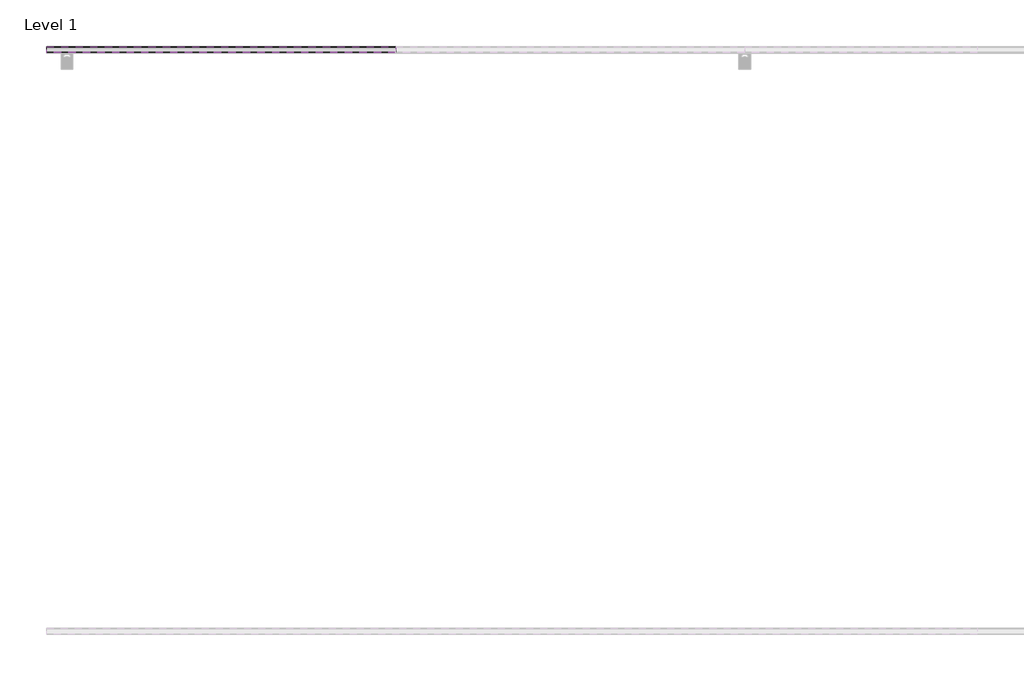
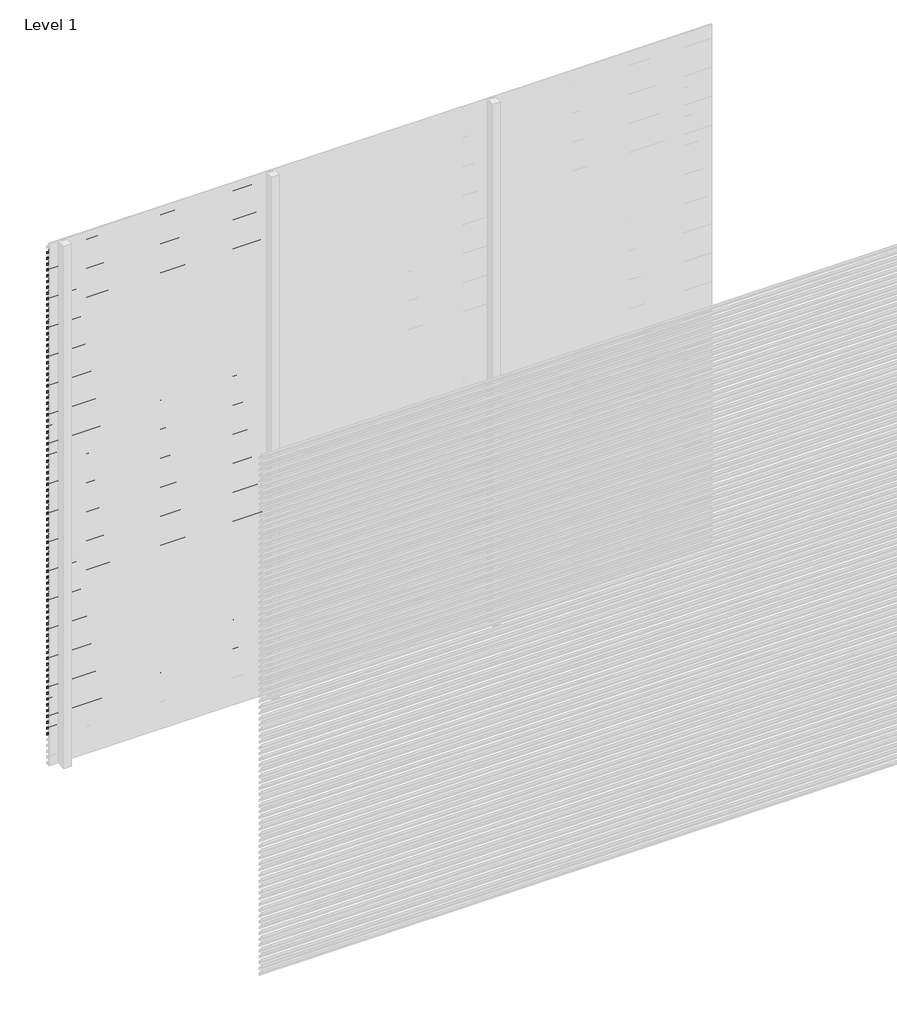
# One storey, part 50 of 507: 84 proxies.
"""IFC4 building model written with IfcOpenShell, lengths in millimetres."""

from ifc_helpers import new_model, si_unit, frame, origin, place, context, project, spatial, polyline, outline, extrude, element, save

model = new_model("IFC4")

# Units and contexts
model_context = context("Model", 3, world=origin())
ifc_project = project(units=[si_unit("LENGTHUNIT", "METRE", prefix="MILLI")], contexts=[model_context])

# Site, building, storey
site = spatial("IfcSite", under=ifc_project)
building = spatial("IfcBuilding", under=site)
storey = spatial("IfcBuildingStorey", under=building, Name="Level 1", Elevation=0.0)

# Proxies
placement = place(None, origin())
element("IfcBuildingElementProxy", 1, Name="Wall Sweeps", at=placement, inside=storey, context=model_context, shape_type="SweptSolid", body=[
    extrude(outline(polyline([(36503.4540136, 2939.7), (36503.4540136, 2926.2), (36502.2040136, 2926.9216933), (36502.2040136, 2938.9782281), (36483.0540136, 2950.0345698), (36483.0540136, 2963.7), (36484.3040136, 2963.7), (36484.3040136, 2950.7562577), (36503.4540136, 2939.7)])), frame((44966.6208097, 0.0, 0.0), z_axis=(1.0, 0.0, 0.0), x_axis=(0.0, 1.0, 0.0)), (0.0, 0.0, 1.0), 1200.0000002),
])
element("IfcBuildingElementProxy", 2, Name="Wall Sweeps", at=placement, inside=storey, context=model_context, shape_type="SweptSolid", body=[
    extrude(outline(polyline([(36503.4540136, 2906.4), (36503.4540136, 2892.9), (36502.2040136, 2893.6216933), (36502.2040136, 2905.6782281), (36483.0540136, 2916.7345698), (36483.0540136, 2930.4), (36484.3040136, 2930.4), (36484.3040136, 2917.4562577), (36503.4540136, 2906.4)])), frame((44966.6208097, 0.0, 0.0), z_axis=(1.0, 0.0, 0.0), x_axis=(0.0, 1.0, 0.0)), (0.0, 0.0, 1.0), 1200.0000002),
])
element("IfcBuildingElementProxy", 3, Name="Wall Sweeps", at=placement, inside=storey, context=model_context, shape_type="SweptSolid", body=[
    extrude(outline(polyline([(36503.4540136, 2873.1), (36503.4540136, 2859.6), (36502.2040136, 2860.3216933), (36502.2040136, 2872.3782281), (36483.0540136, 2883.4345698), (36483.0540136, 2897.1), (36484.3040136, 2897.1), (36484.3040136, 2884.1562577), (36503.4540136, 2873.1)])), frame((44966.6208097, 0.0, 0.0), z_axis=(1.0, 0.0, 0.0), x_axis=(0.0, 1.0, 0.0)), (0.0, 0.0, 1.0), 1200.0000002),
])
element("IfcBuildingElementProxy", 4, Name="Wall Sweeps", at=placement, inside=storey, context=model_context, shape_type="SweptSolid", body=[
    extrude(outline(polyline([(36503.4540136, 2839.8), (36503.4540136, 2826.3), (36502.2040136, 2827.0216933), (36502.2040136, 2839.0782281), (36483.0540136, 2850.1345698), (36483.0540136, 2863.8), (36484.3040136, 2863.8), (36484.3040136, 2850.8562577), (36503.4540136, 2839.8)])), frame((44966.6208097, 0.0, 0.0), z_axis=(1.0, 0.0, 0.0), x_axis=(0.0, 1.0, 0.0)), (0.0, 0.0, 1.0), 1200.0000002),
])
element("IfcBuildingElementProxy", 5, Name="Wall Sweeps", at=placement, inside=storey, context=model_context, shape_type="SweptSolid", body=[
    extrude(outline(polyline([(36503.4540136, 2806.5), (36503.4540136, 2793.0), (36502.2040136, 2793.7216933), (36502.2040136, 2805.7782281), (36483.0540136, 2816.8345698), (36483.0540136, 2830.5), (36484.3040136, 2830.5), (36484.3040136, 2817.5562577), (36503.4540136, 2806.5)])), frame((44966.6208097, 0.0, 0.0), z_axis=(1.0, 0.0, 0.0), x_axis=(0.0, 1.0, 0.0)), (0.0, 0.0, 1.0), 1200.0000002),
])
element("IfcBuildingElementProxy", 6, Name="Wall Sweeps", at=placement, inside=storey, context=model_context, shape_type="SweptSolid", body=[
    extrude(outline(polyline([(36503.4540136, 2773.2), (36503.4540136, 2759.7), (36502.2040136, 2760.4216933), (36502.2040136, 2772.4782281), (36483.0540136, 2783.5345698), (36483.0540136, 2797.2), (36484.3040136, 2797.2), (36484.3040136, 2784.2562577), (36503.4540136, 2773.2)])), frame((44966.6208097, 0.0, 0.0), z_axis=(1.0, 0.0, 0.0), x_axis=(0.0, 1.0, 0.0)), (0.0, 0.0, 1.0), 1200.0000002),
])
element("IfcBuildingElementProxy", 7, Name="Wall Sweeps", at=placement, inside=storey, context=model_context, shape_type="SweptSolid", body=[
    extrude(outline(polyline([(36503.4540136, 2739.9), (36503.4540136, 2726.4), (36502.2040136, 2727.1216933), (36502.2040136, 2739.1782281), (36483.0540136, 2750.2345698), (36483.0540136, 2763.9), (36484.3040136, 2763.9), (36484.3040136, 2750.9562577), (36503.4540136, 2739.9)])), frame((44966.6208097, 0.0, 0.0), z_axis=(1.0, 0.0, 0.0), x_axis=(0.0, 1.0, 0.0)), (0.0, 0.0, 1.0), 1200.0000002),
])
element("IfcBuildingElementProxy", 8, Name="Wall Sweeps", at=placement, inside=storey, context=model_context, shape_type="SweptSolid", body=[
    extrude(outline(polyline([(36503.4540136, 2706.6), (36503.4540136, 2693.1), (36502.2040136, 2693.8216933), (36502.2040136, 2705.8782281), (36483.0540136, 2716.9345698), (36483.0540136, 2730.6), (36484.3040136, 2730.6), (36484.3040136, 2717.6562577), (36503.4540136, 2706.6)])), frame((44966.6208097, 0.0, 0.0), z_axis=(1.0, 0.0, 0.0), x_axis=(0.0, 1.0, 0.0)), (0.0, 0.0, 1.0), 1200.0000002),
])
element("IfcBuildingElementProxy", 9, Name="Wall Sweeps", at=placement, inside=storey, context=model_context, shape_type="SweptSolid", body=[
    extrude(outline(polyline([(36503.4540136, 2673.3), (36503.4540136, 2659.8), (36502.2040136, 2660.5216933), (36502.2040136, 2672.5782281), (36483.0540136, 2683.6345698), (36483.0540136, 2697.3), (36484.3040136, 2697.3), (36484.3040136, 2684.3562577), (36503.4540136, 2673.3)])), frame((44966.6208097, 0.0, 0.0), z_axis=(1.0, 0.0, 0.0), x_axis=(0.0, 1.0, 0.0)), (0.0, 0.0, 1.0), 1200.0000002),
])
element("IfcBuildingElementProxy", 10, Name="Wall Sweeps", at=placement, inside=storey, context=model_context, shape_type="SweptSolid", body=[
    extrude(outline(polyline([(36503.4540136, 2640.0), (36503.4540136, 2626.5), (36502.2040136, 2627.2216933), (36502.2040136, 2639.2782281), (36483.0540136, 2650.3345698), (36483.0540136, 2664.0), (36484.3040136, 2664.0), (36484.3040136, 2651.0562577), (36503.4540136, 2640.0)])), frame((44966.6208097, 0.0, 0.0), z_axis=(1.0, 0.0, 0.0), x_axis=(0.0, 1.0, 0.0)), (0.0, 0.0, 1.0), 1200.0000002),
])
element("IfcBuildingElementProxy", 11, Name="Wall Sweeps", at=placement, inside=storey, context=model_context, shape_type="SweptSolid", body=[
    extrude(outline(polyline([(36503.4540136, 2606.7), (36503.4540136, 2593.2), (36502.2040136, 2593.9216933), (36502.2040136, 2605.9782281), (36483.0540136, 2617.0345698), (36483.0540136, 2630.7), (36484.3040136, 2630.7), (36484.3040136, 2617.7562577), (36503.4540136, 2606.7)])), frame((44966.6208097, 0.0, 0.0), z_axis=(1.0, 0.0, 0.0), x_axis=(0.0, 1.0, 0.0)), (0.0, 0.0, 1.0), 1200.0000002),
])
element("IfcBuildingElementProxy", 12, Name="Wall Sweeps", at=placement, inside=storey, context=model_context, shape_type="SweptSolid", body=[
    extrude(outline(polyline([(36503.4540136, 2573.4), (36503.4540136, 2559.9), (36502.2040136, 2560.6216933), (36502.2040136, 2572.6782281), (36483.0540136, 2583.7345698), (36483.0540136, 2597.4), (36484.3040136, 2597.4), (36484.3040136, 2584.4562577), (36503.4540136, 2573.4)])), frame((44966.6208097, 0.0, 0.0), z_axis=(1.0, 0.0, 0.0), x_axis=(0.0, 1.0, 0.0)), (0.0, 0.0, 1.0), 1200.0000002),
])
element("IfcBuildingElementProxy", 13, Name="Wall Sweeps", at=placement, inside=storey, context=model_context, shape_type="SweptSolid", body=[
    extrude(outline(polyline([(36503.4540136, 2540.1), (36503.4540136, 2526.6), (36502.2040136, 2527.3216933), (36502.2040136, 2539.3782281), (36483.0540136, 2550.4345698), (36483.0540136, 2564.1), (36484.3040136, 2564.1), (36484.3040136, 2551.1562577), (36503.4540136, 2540.1)])), frame((44966.6208097, 0.0, 0.0), z_axis=(1.0, 0.0, 0.0), x_axis=(0.0, 1.0, 0.0)), (0.0, 0.0, 1.0), 1200.0000002),
])
element("IfcBuildingElementProxy", 14, Name="Wall Sweeps", at=placement, inside=storey, context=model_context, shape_type="SweptSolid", body=[
    extrude(outline(polyline([(36503.4540136, 2506.8), (36503.4540136, 2493.3), (36502.2040136, 2494.0216933), (36502.2040136, 2506.0782281), (36483.0540136, 2517.1345698), (36483.0540136, 2530.8), (36484.3040136, 2530.8), (36484.3040136, 2517.8562577), (36503.4540136, 2506.8)])), frame((44966.6208097, 0.0, 0.0), z_axis=(1.0, 0.0, 0.0), x_axis=(0.0, 1.0, 0.0)), (0.0, 0.0, 1.0), 1200.0000002),
])
element("IfcBuildingElementProxy", 15, Name="Wall Sweeps", at=placement, inside=storey, context=model_context, shape_type="SweptSolid", body=[
    extrude(outline(polyline([(36503.4540136, 2473.5), (36503.4540136, 2460.0), (36502.2040136, 2460.7216933), (36502.2040136, 2472.7782281), (36483.0540136, 2483.8345698), (36483.0540136, 2497.5), (36484.3040136, 2497.5), (36484.3040136, 2484.5562577), (36503.4540136, 2473.5)])), frame((44966.6208097, 0.0, 0.0), z_axis=(1.0, 0.0, 0.0), x_axis=(0.0, 1.0, 0.0)), (0.0, 0.0, 1.0), 1200.0000002),
])
element("IfcBuildingElementProxy", 16, Name="Wall Sweeps", at=placement, inside=storey, context=model_context, shape_type="SweptSolid", body=[
    extrude(outline(polyline([(36503.4540136, 2440.2), (36503.4540136, 2426.7), (36502.2040136, 2427.4216933), (36502.2040136, 2439.4782281), (36483.0540136, 2450.5345698), (36483.0540136, 2464.2), (36484.3040136, 2464.2), (36484.3040136, 2451.2562577), (36503.4540136, 2440.2)])), frame((44966.6208097, 0.0, 0.0), z_axis=(1.0, 0.0, 0.0), x_axis=(0.0, 1.0, 0.0)), (0.0, 0.0, 1.0), 1200.0000002),
])
element("IfcBuildingElementProxy", 17, Name="Wall Sweeps", at=placement, inside=storey, context=model_context, shape_type="SweptSolid", body=[
    extrude(outline(polyline([(36503.4540136, 2406.9), (36503.4540136, 2393.4), (36502.2040136, 2394.1216933), (36502.2040136, 2406.1782281), (36483.0540136, 2417.2345698), (36483.0540136, 2430.9), (36484.3040136, 2430.9), (36484.3040136, 2417.9562577), (36503.4540136, 2406.9)])), frame((44966.6208097, 0.0, 0.0), z_axis=(1.0, 0.0, 0.0), x_axis=(0.0, 1.0, 0.0)), (0.0, 0.0, 1.0), 1200.0000002),
])
element("IfcBuildingElementProxy", 18, Name="Wall Sweeps", at=placement, inside=storey, context=model_context, shape_type="SweptSolid", body=[
    extrude(outline(polyline([(36503.4540136, 2373.6), (36503.4540136, 2360.1), (36502.2040136, 2360.8216933), (36502.2040136, 2372.8782281), (36483.0540136, 2383.9345698), (36483.0540136, 2397.6), (36484.3040136, 2397.6), (36484.3040136, 2384.6562577), (36503.4540136, 2373.6)])), frame((44966.6208097, 0.0, 0.0), z_axis=(1.0, 0.0, 0.0), x_axis=(0.0, 1.0, 0.0)), (0.0, 0.0, 1.0), 1200.0000002),
])
element("IfcBuildingElementProxy", 19, Name="Wall Sweeps", at=placement, inside=storey, context=model_context, shape_type="SweptSolid", body=[
    extrude(outline(polyline([(36503.4540136, 2340.3), (36503.4540136, 2326.8), (36502.2040136, 2327.5216933), (36502.2040136, 2339.5782281), (36483.0540136, 2350.6345698), (36483.0540136, 2364.3), (36484.3040136, 2364.3), (36484.3040136, 2351.3562577), (36503.4540136, 2340.3)])), frame((44966.6208097, 0.0, 0.0), z_axis=(1.0, 0.0, 0.0), x_axis=(0.0, 1.0, 0.0)), (0.0, 0.0, 1.0), 1200.0000002),
])
element("IfcBuildingElementProxy", 20, Name="Wall Sweeps", at=placement, inside=storey, context=model_context, shape_type="SweptSolid", body=[
    extrude(outline(polyline([(36503.4540136, 2307.0), (36503.4540136, 2293.5), (36502.2040136, 2294.2216933), (36502.2040136, 2306.2782281), (36483.0540136, 2317.3345698), (36483.0540136, 2331.0), (36484.3040136, 2331.0), (36484.3040136, 2318.0562577), (36503.4540136, 2307.0)])), frame((44966.6208097, 0.0, 0.0), z_axis=(1.0, 0.0, 0.0), x_axis=(0.0, 1.0, 0.0)), (0.0, 0.0, 1.0), 1200.0000002),
])
element("IfcBuildingElementProxy", 21, Name="Wall Sweeps", at=placement, inside=storey, context=model_context, shape_type="SweptSolid", body=[
    extrude(outline(polyline([(36503.4540136, 2273.7), (36503.4540136, 2260.2), (36502.2040136, 2260.9216933), (36502.2040136, 2272.9782281), (36483.0540136, 2284.0345698), (36483.0540136, 2297.7), (36484.3040136, 2297.7), (36484.3040136, 2284.7562577), (36503.4540136, 2273.7)])), frame((44966.6208097, 0.0, 0.0), z_axis=(1.0, 0.0, 0.0), x_axis=(0.0, 1.0, 0.0)), (0.0, 0.0, 1.0), 1200.0000002),
])
element("IfcBuildingElementProxy", 22, Name="Wall Sweeps", at=placement, inside=storey, context=model_context, shape_type="SweptSolid", body=[
    extrude(outline(polyline([(36503.4540136, 2240.4), (36503.4540136, 2226.9), (36502.2040136, 2227.6216933), (36502.2040136, 2239.6782281), (36483.0540136, 2250.7345698), (36483.0540136, 2264.4), (36484.3040136, 2264.4), (36484.3040136, 2251.4562577), (36503.4540136, 2240.4)])), frame((44966.6208097, 0.0, 0.0), z_axis=(1.0, 0.0, 0.0), x_axis=(0.0, 1.0, 0.0)), (0.0, 0.0, 1.0), 1200.0000002),
])
element("IfcBuildingElementProxy", 23, Name="Wall Sweeps", at=placement, inside=storey, context=model_context, shape_type="SweptSolid", body=[
    extrude(outline(polyline([(36503.4540136, 2207.1), (36503.4540136, 2193.6), (36502.2040136, 2194.3216933), (36502.2040136, 2206.3782281), (36483.0540136, 2217.4345698), (36483.0540136, 2231.1), (36484.3040136, 2231.1), (36484.3040136, 2218.1562577), (36503.4540136, 2207.1)])), frame((44966.6208097, 0.0, 0.0), z_axis=(1.0, 0.0, 0.0), x_axis=(0.0, 1.0, 0.0)), (0.0, 0.0, 1.0), 1200.0000002),
])
element("IfcBuildingElementProxy", 24, Name="Wall Sweeps", at=placement, inside=storey, context=model_context, shape_type="SweptSolid", body=[
    extrude(outline(polyline([(36503.4540136, 2173.8), (36503.4540136, 2160.3), (36502.2040136, 2161.0216933), (36502.2040136, 2173.0782281), (36483.0540136, 2184.1345698), (36483.0540136, 2197.8), (36484.3040136, 2197.8), (36484.3040136, 2184.8562577), (36503.4540136, 2173.8)])), frame((44966.6208097, 0.0, 0.0), z_axis=(1.0, 0.0, 0.0), x_axis=(0.0, 1.0, 0.0)), (0.0, 0.0, 1.0), 1200.0000002),
])
element("IfcBuildingElementProxy", 25, Name="Wall Sweeps", at=placement, inside=storey, context=model_context, shape_type="SweptSolid", body=[
    extrude(outline(polyline([(36503.4540136, 2140.5), (36503.4540136, 2127.0), (36502.2040136, 2127.7216933), (36502.2040136, 2139.7782281), (36483.0540136, 2150.8345698), (36483.0540136, 2164.5), (36484.3040136, 2164.5), (36484.3040136, 2151.5562577), (36503.4540136, 2140.5)])), frame((44966.6208097, 0.0, 0.0), z_axis=(1.0, 0.0, 0.0), x_axis=(0.0, 1.0, 0.0)), (0.0, 0.0, 1.0), 1200.0000002),
])
element("IfcBuildingElementProxy", 26, Name="Wall Sweeps", at=placement, inside=storey, context=model_context, shape_type="SweptSolid", body=[
    extrude(outline(polyline([(36503.4540136, 2107.2), (36503.4540136, 2093.7), (36502.2040136, 2094.4216933), (36502.2040136, 2106.4782281), (36483.0540136, 2117.5345698), (36483.0540136, 2131.2), (36484.3040136, 2131.2), (36484.3040136, 2118.2562577), (36503.4540136, 2107.2)])), frame((44966.6208097, 0.0, 0.0), z_axis=(1.0, 0.0, 0.0), x_axis=(0.0, 1.0, 0.0)), (0.0, 0.0, 1.0), 1200.0000002),
])
element("IfcBuildingElementProxy", 27, Name="Wall Sweeps", at=placement, inside=storey, context=model_context, shape_type="SweptSolid", body=[
    extrude(outline(polyline([(36503.4540136, 2073.9), (36503.4540136, 2060.4), (36502.2040136, 2061.1216933), (36502.2040136, 2073.1782281), (36483.0540136, 2084.2345698), (36483.0540136, 2097.9), (36484.3040136, 2097.9), (36484.3040136, 2084.9562577), (36503.4540136, 2073.9)])), frame((44966.6208097, 0.0, 0.0), z_axis=(1.0, 0.0, 0.0), x_axis=(0.0, 1.0, 0.0)), (0.0, 0.0, 1.0), 1200.0000002),
])
element("IfcBuildingElementProxy", 28, Name="Wall Sweeps", at=placement, inside=storey, context=model_context, shape_type="SweptSolid", body=[
    extrude(outline(polyline([(36503.4540136, 2040.6), (36503.4540136, 2027.1), (36502.2040136, 2027.8216933), (36502.2040136, 2039.8782281), (36483.0540136, 2050.9345698), (36483.0540136, 2064.6), (36484.3040136, 2064.6), (36484.3040136, 2051.6562577), (36503.4540136, 2040.6)])), frame((44966.6208097, 0.0, 0.0), z_axis=(1.0, 0.0, 0.0), x_axis=(0.0, 1.0, 0.0)), (0.0, 0.0, 1.0), 1200.0000002),
])
element("IfcBuildingElementProxy", 29, Name="Wall Sweeps", at=placement, inside=storey, context=model_context, shape_type="SweptSolid", body=[
    extrude(outline(polyline([(36503.4540136, 2007.3), (36503.4540136, 1993.8), (36502.2040136, 1994.5216933), (36502.2040136, 2006.5782281), (36483.0540136, 2017.6345698), (36483.0540136, 2031.3), (36484.3040136, 2031.3), (36484.3040136, 2018.3562577), (36503.4540136, 2007.3)])), frame((44966.6208097, 0.0, 0.0), z_axis=(1.0, 0.0, 0.0), x_axis=(0.0, 1.0, 0.0)), (0.0, 0.0, 1.0), 1200.0000002),
])
element("IfcBuildingElementProxy", 30, Name="Wall Sweeps", at=placement, inside=storey, context=model_context, shape_type="SweptSolid", body=[
    extrude(outline(polyline([(36503.4540136, 1974.0), (36503.4540136, 1960.5), (36502.2040136, 1961.2216933), (36502.2040136, 1973.2782281), (36483.0540136, 1984.3345698), (36483.0540136, 1998.0), (36484.3040136, 1998.0), (36484.3040136, 1985.0562577), (36503.4540136, 1974.0)])), frame((44966.6208097, 0.0, 0.0), z_axis=(1.0, 0.0, 0.0), x_axis=(0.0, 1.0, 0.0)), (0.0, 0.0, 1.0), 1200.0000002),
])
element("IfcBuildingElementProxy", 31, Name="Wall Sweeps", at=placement, inside=storey, context=model_context, shape_type="SweptSolid", body=[
    extrude(outline(polyline([(36503.4540136, 1940.7), (36503.4540136, 1927.2), (36502.2040136, 1927.9216933), (36502.2040136, 1939.9782281), (36483.0540136, 1951.0345698), (36483.0540136, 1964.7), (36484.3040136, 1964.7), (36484.3040136, 1951.7562577), (36503.4540136, 1940.7)])), frame((44966.6208097, 0.0, 0.0), z_axis=(1.0, 0.0, 0.0), x_axis=(0.0, 1.0, 0.0)), (0.0, 0.0, 1.0), 1200.0000002),
])
element("IfcBuildingElementProxy", 32, Name="Wall Sweeps", at=placement, inside=storey, context=model_context, shape_type="SweptSolid", body=[
    extrude(outline(polyline([(36503.4540136, 1907.4), (36503.4540136, 1893.9), (36502.2040136, 1894.6216933), (36502.2040136, 1906.6782281), (36483.0540136, 1917.7345698), (36483.0540136, 1931.4), (36484.3040136, 1931.4), (36484.3040136, 1918.4562577), (36503.4540136, 1907.4)])), frame((44966.6208097, 0.0, 0.0), z_axis=(1.0, 0.0, 0.0), x_axis=(0.0, 1.0, 0.0)), (0.0, 0.0, 1.0), 1200.0000002),
])
element("IfcBuildingElementProxy", 33, Name="Wall Sweeps", at=placement, inside=storey, context=model_context, shape_type="SweptSolid", body=[
    extrude(outline(polyline([(36503.4540136, 1874.1), (36503.4540136, 1860.6), (36502.2040136, 1861.3216933), (36502.2040136, 1873.3782281), (36483.0540136, 1884.4345698), (36483.0540136, 1898.1), (36484.3040136, 1898.1), (36484.3040136, 1885.1562577), (36503.4540136, 1874.1)])), frame((44966.6208097, 0.0, 0.0), z_axis=(1.0, 0.0, 0.0), x_axis=(0.0, 1.0, 0.0)), (0.0, 0.0, 1.0), 1200.0000002),
])
element("IfcBuildingElementProxy", 34, Name="Wall Sweeps", at=placement, inside=storey, context=model_context, shape_type="SweptSolid", body=[
    extrude(outline(polyline([(36503.4540136, 1840.8), (36503.4540136, 1827.3), (36502.2040136, 1828.0216933), (36502.2040136, 1840.0782281), (36483.0540136, 1851.1345698), (36483.0540136, 1864.8), (36484.3040136, 1864.8), (36484.3040136, 1851.8562577), (36503.4540136, 1840.8)])), frame((44966.6208097, 0.0, 0.0), z_axis=(1.0, 0.0, 0.0), x_axis=(0.0, 1.0, 0.0)), (0.0, 0.0, 1.0), 1200.0000002),
])
element("IfcBuildingElementProxy", 35, Name="Wall Sweeps", at=placement, inside=storey, context=model_context, shape_type="SweptSolid", body=[
    extrude(outline(polyline([(36503.4540136, 1807.5), (36503.4540136, 1794.0), (36502.2040136, 1794.7216933), (36502.2040136, 1806.7782281), (36483.0540136, 1817.8345698), (36483.0540136, 1831.5), (36484.3040136, 1831.5), (36484.3040136, 1818.5562577), (36503.4540136, 1807.5)])), frame((44966.6208097, 0.0, 0.0), z_axis=(1.0, 0.0, 0.0), x_axis=(0.0, 1.0, 0.0)), (0.0, 0.0, 1.0), 1200.0000002),
])
element("IfcBuildingElementProxy", 36, Name="Wall Sweeps", at=placement, inside=storey, context=model_context, shape_type="SweptSolid", body=[
    extrude(outline(polyline([(36503.4540136, 1774.2), (36503.4540136, 1760.7), (36502.2040136, 1761.4216933), (36502.2040136, 1773.4782281), (36483.0540136, 1784.5345698), (36483.0540136, 1798.2), (36484.3040136, 1798.2), (36484.3040136, 1785.2562577), (36503.4540136, 1774.2)])), frame((44966.6208097, 0.0, 0.0), z_axis=(1.0, 0.0, 0.0), x_axis=(0.0, 1.0, 0.0)), (0.0, 0.0, 1.0), 1200.0000002),
])
element("IfcBuildingElementProxy", 37, Name="Wall Sweeps", at=placement, inside=storey, context=model_context, shape_type="SweptSolid", body=[
    extrude(outline(polyline([(36503.4540136, 1740.9), (36503.4540136, 1727.4), (36502.2040136, 1728.1216933), (36502.2040136, 1740.1782281), (36483.0540136, 1751.2345698), (36483.0540136, 1764.9), (36484.3040136, 1764.9), (36484.3040136, 1751.9562577), (36503.4540136, 1740.9)])), frame((44966.6208097, 0.0, 0.0), z_axis=(1.0, 0.0, 0.0), x_axis=(0.0, 1.0, 0.0)), (0.0, 0.0, 1.0), 1200.0000002),
])
element("IfcBuildingElementProxy", 38, Name="Wall Sweeps", at=placement, inside=storey, context=model_context, shape_type="SweptSolid", body=[
    extrude(outline(polyline([(36503.4540136, 1707.6), (36503.4540136, 1694.1), (36502.2040136, 1694.8216933), (36502.2040136, 1706.8782281), (36483.0540136, 1717.9345698), (36483.0540136, 1731.6), (36484.3040136, 1731.6), (36484.3040136, 1718.6562577), (36503.4540136, 1707.6)])), frame((44966.6208097, 0.0, 0.0), z_axis=(1.0, 0.0, 0.0), x_axis=(0.0, 1.0, 0.0)), (0.0, 0.0, 1.0), 1200.0000002),
])
element("IfcBuildingElementProxy", 39, Name="Wall Sweeps", at=placement, inside=storey, context=model_context, shape_type="SweptSolid", body=[
    extrude(outline(polyline([(36503.4540136, 1674.3), (36503.4540136, 1660.8), (36502.2040136, 1661.5216933), (36502.2040136, 1673.5782281), (36483.0540136, 1684.6345698), (36483.0540136, 1698.3), (36484.3040136, 1698.3), (36484.3040136, 1685.3562577), (36503.4540136, 1674.3)])), frame((44966.6208097, 0.0, 0.0), z_axis=(1.0, 0.0, 0.0), x_axis=(0.0, 1.0, 0.0)), (0.0, 0.0, 1.0), 1200.0000002),
])
element("IfcBuildingElementProxy", 40, Name="Wall Sweeps", at=placement, inside=storey, context=model_context, shape_type="SweptSolid", body=[
    extrude(outline(polyline([(36503.4540136, 1641.0), (36503.4540136, 1627.5), (36502.2040136, 1628.2216933), (36502.2040136, 1640.2782281), (36483.0540136, 1651.3345698), (36483.0540136, 1665.0), (36484.3040136, 1665.0), (36484.3040136, 1652.0562577), (36503.4540136, 1641.0)])), frame((44966.6208097, 0.0, 0.0), z_axis=(1.0, 0.0, 0.0), x_axis=(0.0, 1.0, 0.0)), (0.0, 0.0, 1.0), 1200.0000002),
])
element("IfcBuildingElementProxy", 41, Name="Wall Sweeps", at=placement, inside=storey, context=model_context, shape_type="SweptSolid", body=[
    extrude(outline(polyline([(36503.4540136, 1607.7), (36503.4540136, 1594.2), (36502.2040136, 1594.9216933), (36502.2040136, 1606.9782281), (36483.0540136, 1618.0345698), (36483.0540136, 1631.7), (36484.3040136, 1631.7), (36484.3040136, 1618.7562577), (36503.4540136, 1607.7)])), frame((44966.6208097, 0.0, 0.0), z_axis=(1.0, 0.0, 0.0), x_axis=(0.0, 1.0, 0.0)), (0.0, 0.0, 1.0), 1200.0000002),
])
element("IfcBuildingElementProxy", 42, Name="Wall Sweeps", at=placement, inside=storey, context=model_context, shape_type="SweptSolid", body=[
    extrude(outline(polyline([(36503.4540136, 1574.4), (36503.4540136, 1560.9), (36502.2040136, 1561.6216933), (36502.2040136, 1573.6782281), (36483.0540136, 1584.7345698), (36483.0540136, 1598.4), (36484.3040136, 1598.4), (36484.3040136, 1585.4562577), (36503.4540136, 1574.4)])), frame((44966.6208097, 0.0, 0.0), z_axis=(1.0, 0.0, 0.0), x_axis=(0.0, 1.0, 0.0)), (0.0, 0.0, 1.0), 1200.0000002),
])
element("IfcBuildingElementProxy", 43, Name="Wall Sweeps", at=placement, inside=storey, context=model_context, shape_type="SweptSolid", body=[
    extrude(outline(polyline([(36503.4540136, 1541.1), (36503.4540136, 1527.6), (36502.2040136, 1528.3216933), (36502.2040136, 1540.3782281), (36483.0540136, 1551.4345698), (36483.0540136, 1565.1), (36484.3040136, 1565.1), (36484.3040136, 1552.1562577), (36503.4540136, 1541.1)])), frame((44966.6208097, 0.0, 0.0), z_axis=(1.0, 0.0, 0.0), x_axis=(0.0, 1.0, 0.0)), (0.0, 0.0, 1.0), 1200.0000002),
])
element("IfcBuildingElementProxy", 44, Name="Wall Sweeps", at=placement, inside=storey, context=model_context, shape_type="SweptSolid", body=[
    extrude(outline(polyline([(36503.4540136, 1507.8), (36503.4540136, 1494.3), (36502.2040136, 1495.0216933), (36502.2040136, 1507.0782281), (36483.0540136, 1518.1345698), (36483.0540136, 1531.8), (36484.3040136, 1531.8), (36484.3040136, 1518.8562577), (36503.4540136, 1507.8)])), frame((44966.6208097, 0.0, 0.0), z_axis=(1.0, 0.0, 0.0), x_axis=(0.0, 1.0, 0.0)), (0.0, 0.0, 1.0), 1200.0000002),
])
element("IfcBuildingElementProxy", 45, Name="Wall Sweeps", at=placement, inside=storey, context=model_context, shape_type="SweptSolid", body=[
    extrude(outline(polyline([(36503.4540136, 1474.5), (36503.4540136, 1461.0), (36502.2040136, 1461.7216933), (36502.2040136, 1473.7782281), (36483.0540136, 1484.8345698), (36483.0540136, 1498.5), (36484.3040136, 1498.5), (36484.3040136, 1485.5562577), (36503.4540136, 1474.5)])), frame((44966.6208097, 0.0, 0.0), z_axis=(1.0, 0.0, 0.0), x_axis=(0.0, 1.0, 0.0)), (0.0, 0.0, 1.0), 1200.0000002),
])
element("IfcBuildingElementProxy", 46, Name="Wall Sweeps", at=placement, inside=storey, context=model_context, shape_type="SweptSolid", body=[
    extrude(outline(polyline([(36503.4540136, 1441.2), (36503.4540136, 1427.7), (36502.2040136, 1428.4216933), (36502.2040136, 1440.4782281), (36483.0540136, 1451.5345698), (36483.0540136, 1465.2), (36484.3040136, 1465.2), (36484.3040136, 1452.2562577), (36503.4540136, 1441.2)])), frame((44966.6208097, 0.0, 0.0), z_axis=(1.0, 0.0, 0.0), x_axis=(0.0, 1.0, 0.0)), (0.0, 0.0, 1.0), 1200.0000002),
])
element("IfcBuildingElementProxy", 47, Name="Wall Sweeps", at=placement, inside=storey, context=model_context, shape_type="SweptSolid", body=[
    extrude(outline(polyline([(36503.4540136, 1407.9), (36503.4540136, 1394.4), (36502.2040136, 1395.1216933), (36502.2040136, 1407.1782281), (36483.0540136, 1418.2345698), (36483.0540136, 1431.9), (36484.3040136, 1431.9), (36484.3040136, 1418.9562577), (36503.4540136, 1407.9)])), frame((44966.6208097, 0.0, 0.0), z_axis=(1.0, 0.0, 0.0), x_axis=(0.0, 1.0, 0.0)), (0.0, 0.0, 1.0), 1200.0000002),
])
element("IfcBuildingElementProxy", 48, Name="Wall Sweeps", at=placement, inside=storey, context=model_context, shape_type="SweptSolid", body=[
    extrude(outline(polyline([(36503.4540136, 1374.6), (36503.4540136, 1361.1), (36502.2040136, 1361.8216933), (36502.2040136, 1373.8782281), (36483.0540136, 1384.9345698), (36483.0540136, 1398.6), (36484.3040136, 1398.6), (36484.3040136, 1385.6562577), (36503.4540136, 1374.6)])), frame((44966.6208097, 0.0, 0.0), z_axis=(1.0, 0.0, 0.0), x_axis=(0.0, 1.0, 0.0)), (0.0, 0.0, 1.0), 1200.0000002),
])
element("IfcBuildingElementProxy", 49, Name="Wall Sweeps", at=placement, inside=storey, context=model_context, shape_type="SweptSolid", body=[
    extrude(outline(polyline([(36503.4540136, 1341.3), (36503.4540136, 1327.8), (36502.2040136, 1328.5216933), (36502.2040136, 1340.5782281), (36483.0540136, 1351.6345698), (36483.0540136, 1365.3), (36484.3040136, 1365.3), (36484.3040136, 1352.3562577), (36503.4540136, 1341.3)])), frame((44966.6208097, 0.0, 0.0), z_axis=(1.0, 0.0, 0.0), x_axis=(0.0, 1.0, 0.0)), (0.0, 0.0, 1.0), 1200.0000002),
])
element("IfcBuildingElementProxy", 50, Name="Wall Sweeps", at=placement, inside=storey, context=model_context, shape_type="SweptSolid", body=[
    extrude(outline(polyline([(36503.4540136, 1308.0), (36503.4540136, 1294.5), (36502.2040136, 1295.2216933), (36502.2040136, 1307.2782281), (36483.0540136, 1318.3345698), (36483.0540136, 1332.0), (36484.3040136, 1332.0), (36484.3040136, 1319.0562577), (36503.4540136, 1308.0)])), frame((44966.6208097, 0.0, 0.0), z_axis=(1.0, 0.0, 0.0), x_axis=(0.0, 1.0, 0.0)), (0.0, 0.0, 1.0), 1200.0000002),
])
element("IfcBuildingElementProxy", 51, Name="Wall Sweeps", at=placement, inside=storey, context=model_context, shape_type="SweptSolid", body=[
    extrude(outline(polyline([(36503.4540136, 1274.7), (36503.4540136, 1261.2), (36502.2040136, 1261.9216933), (36502.2040136, 1273.9782281), (36483.0540136, 1285.0345698), (36483.0540136, 1298.7), (36484.3040136, 1298.7), (36484.3040136, 1285.7562577), (36503.4540136, 1274.7)])), frame((44966.6208097, 0.0, 0.0), z_axis=(1.0, 0.0, 0.0), x_axis=(0.0, 1.0, 0.0)), (0.0, 0.0, 1.0), 1200.0000002),
])
element("IfcBuildingElementProxy", 52, Name="Wall Sweeps", at=placement, inside=storey, context=model_context, shape_type="SweptSolid", body=[
    extrude(outline(polyline([(36503.4540136, 1241.4), (36503.4540136, 1227.9), (36502.2040136, 1228.6216933), (36502.2040136, 1240.6782281), (36483.0540136, 1251.7345698), (36483.0540136, 1265.4), (36484.3040136, 1265.4), (36484.3040136, 1252.4562577), (36503.4540136, 1241.4)])), frame((44966.6208097, 0.0, 0.0), z_axis=(1.0, 0.0, 0.0), x_axis=(0.0, 1.0, 0.0)), (0.0, 0.0, 1.0), 1200.0000002),
])
element("IfcBuildingElementProxy", 53, Name="Wall Sweeps", at=placement, inside=storey, context=model_context, shape_type="SweptSolid", body=[
    extrude(outline(polyline([(36503.4540136, 1208.1), (36503.4540136, 1194.6), (36502.2040136, 1195.3216933), (36502.2040136, 1207.3782281), (36483.0540136, 1218.4345698), (36483.0540136, 1232.1), (36484.3040136, 1232.1), (36484.3040136, 1219.1562577), (36503.4540136, 1208.1)])), frame((44966.6208097, 0.0, 0.0), z_axis=(1.0, 0.0, 0.0), x_axis=(0.0, 1.0, 0.0)), (0.0, 0.0, 1.0), 1200.0000002),
])
element("IfcBuildingElementProxy", 54, Name="Wall Sweeps", at=placement, inside=storey, context=model_context, shape_type="SweptSolid", body=[
    extrude(outline(polyline([(36503.4540136, 1174.8), (36503.4540136, 1161.3), (36502.2040136, 1162.0216933), (36502.2040136, 1174.0782281), (36483.0540136, 1185.1345698), (36483.0540136, 1198.8), (36484.3040136, 1198.8), (36484.3040136, 1185.8562577), (36503.4540136, 1174.8)])), frame((44966.6208097, 0.0, 0.0), z_axis=(1.0, 0.0, 0.0), x_axis=(0.0, 1.0, 0.0)), (0.0, 0.0, 1.0), 1200.0000002),
])
element("IfcBuildingElementProxy", 55, Name="Wall Sweeps", at=placement, inside=storey, context=model_context, shape_type="SweptSolid", body=[
    extrude(outline(polyline([(36503.4540136, 1141.5), (36503.4540136, 1128.0), (36502.2040136, 1128.7216933), (36502.2040136, 1140.7782281), (36483.0540136, 1151.8345698), (36483.0540136, 1165.5), (36484.3040136, 1165.5), (36484.3040136, 1152.5562577), (36503.4540136, 1141.5)])), frame((44966.6208097, 0.0, 0.0), z_axis=(1.0, 0.0, 0.0), x_axis=(0.0, 1.0, 0.0)), (0.0, 0.0, 1.0), 1200.0000002),
])
element("IfcBuildingElementProxy", 56, Name="Wall Sweeps", at=placement, inside=storey, context=model_context, shape_type="SweptSolid", body=[
    extrude(outline(polyline([(36503.4540136, 1108.2), (36503.4540136, 1094.7), (36502.2040136, 1095.4216933), (36502.2040136, 1107.4782281), (36483.0540136, 1118.5345698), (36483.0540136, 1132.2), (36484.3040136, 1132.2), (36484.3040136, 1119.2562577), (36503.4540136, 1108.2)])), frame((44966.6208097, 0.0, 0.0), z_axis=(1.0, 0.0, 0.0), x_axis=(0.0, 1.0, 0.0)), (0.0, 0.0, 1.0), 1200.0000002),
])
element("IfcBuildingElementProxy", 57, Name="Wall Sweeps", at=placement, inside=storey, context=model_context, shape_type="SweptSolid", body=[
    extrude(outline(polyline([(36503.4540136, 1074.9), (36503.4540136, 1061.4), (36502.2040136, 1062.1216933), (36502.2040136, 1074.1782281), (36483.0540136, 1085.2345698), (36483.0540136, 1098.9), (36484.3040136, 1098.9), (36484.3040136, 1085.9562577), (36503.4540136, 1074.9)])), frame((44966.6208097, 0.0, 0.0), z_axis=(1.0, 0.0, 0.0), x_axis=(0.0, 1.0, 0.0)), (0.0, 0.0, 1.0), 1200.0000002),
])
element("IfcBuildingElementProxy", 58, Name="Wall Sweeps", at=placement, inside=storey, context=model_context, shape_type="SweptSolid", body=[
    extrude(outline(polyline([(36503.4540136, 1041.6), (36503.4540136, 1028.1), (36502.2040136, 1028.8216933), (36502.2040136, 1040.8782281), (36483.0540136, 1051.9345698), (36483.0540136, 1065.6), (36484.3040136, 1065.6), (36484.3040136, 1052.6562577), (36503.4540136, 1041.6)])), frame((44966.6208097, 0.0, 0.0), z_axis=(1.0, 0.0, 0.0), x_axis=(0.0, 1.0, 0.0)), (0.0, 0.0, 1.0), 1200.0000002),
])
element("IfcBuildingElementProxy", 59, Name="Wall Sweeps", at=placement, inside=storey, context=model_context, shape_type="SweptSolid", body=[
    extrude(outline(polyline([(36503.4540136, 1008.3), (36503.4540136, 994.8), (36502.2040136, 995.5216933), (36502.2040136, 1007.5782281), (36483.0540136, 1018.6345698), (36483.0540136, 1032.3), (36484.3040136, 1032.3), (36484.3040136, 1019.3562577), (36503.4540136, 1008.3)])), frame((44966.6208097, 0.0, 0.0), z_axis=(1.0, 0.0, 0.0), x_axis=(0.0, 1.0, 0.0)), (0.0, 0.0, 1.0), 1200.0000002),
])
element("IfcBuildingElementProxy", 60, Name="Wall Sweeps", at=placement, inside=storey, context=model_context, shape_type="SweptSolid", body=[
    extrude(outline(polyline([(36503.4540136, 975.0), (36503.4540136, 961.5), (36502.2040136, 962.2216933), (36502.2040136, 974.2782281), (36483.0540136, 985.3345698), (36483.0540136, 999.0), (36484.3040136, 999.0), (36484.3040136, 986.0562577), (36503.4540136, 975.0)])), frame((44966.6208097, 0.0, 0.0), z_axis=(1.0, 0.0, 0.0), x_axis=(0.0, 1.0, 0.0)), (0.0, 0.0, 1.0), 1200.0000002),
])
element("IfcBuildingElementProxy", 61, Name="Wall Sweeps", at=placement, inside=storey, context=model_context, shape_type="SweptSolid", body=[
    extrude(outline(polyline([(36503.4540136, 941.7), (36503.4540136, 928.2), (36502.2040136, 928.9216933), (36502.2040136, 940.9782281), (36483.0540136, 952.0345698), (36483.0540136, 965.7), (36484.3040136, 965.7), (36484.3040136, 952.7562577), (36503.4540136, 941.7)])), frame((44966.6208097, 0.0, 0.0), z_axis=(1.0, 0.0, 0.0), x_axis=(0.0, 1.0, 0.0)), (0.0, 0.0, 1.0), 1200.0000002),
])
element("IfcBuildingElementProxy", 62, Name="Wall Sweeps", at=placement, inside=storey, context=model_context, shape_type="SweptSolid", body=[
    extrude(outline(polyline([(36503.4540136, 908.4), (36503.4540136, 894.9), (36502.2040136, 895.6216933), (36502.2040136, 907.6782281), (36483.0540136, 918.7345698), (36483.0540136, 932.4), (36484.3040136, 932.4), (36484.3040136, 919.4562577), (36503.4540136, 908.4)])), frame((44966.6208097, 0.0, 0.0), z_axis=(1.0, 0.0, 0.0), x_axis=(0.0, 1.0, 0.0)), (0.0, 0.0, 1.0), 1200.0000002),
])
element("IfcBuildingElementProxy", 63, Name="Wall Sweeps", at=placement, inside=storey, context=model_context, shape_type="SweptSolid", body=[
    extrude(outline(polyline([(36503.4540136, 875.1), (36503.4540136, 861.6), (36502.2040136, 862.3216933), (36502.2040136, 874.3782281), (36483.0540136, 885.4345698), (36483.0540136, 899.1), (36484.3040136, 899.1), (36484.3040136, 886.1562577), (36503.4540136, 875.1)])), frame((44966.6208097, 0.0, 0.0), z_axis=(1.0, 0.0, 0.0), x_axis=(0.0, 1.0, 0.0)), (0.0, 0.0, 1.0), 1200.0000002),
])
element("IfcBuildingElementProxy", 64, Name="Wall Sweeps", at=placement, inside=storey, context=model_context, shape_type="SweptSolid", body=[
    extrude(outline(polyline([(36503.4540136, 841.8), (36503.4540136, 828.3), (36502.2040136, 829.0216933), (36502.2040136, 841.0782281), (36483.0540136, 852.1345698), (36483.0540136, 865.8), (36484.3040136, 865.8), (36484.3040136, 852.8562577), (36503.4540136, 841.8)])), frame((44966.6208097, 0.0, 0.0), z_axis=(1.0, 0.0, 0.0), x_axis=(0.0, 1.0, 0.0)), (0.0, 0.0, 1.0), 1200.0000002),
])
element("IfcBuildingElementProxy", 65, Name="Wall Sweeps", at=placement, inside=storey, context=model_context, shape_type="SweptSolid", body=[
    extrude(outline(polyline([(36503.4540136, 808.5), (36503.4540136, 795.0), (36502.2040136, 795.7216933), (36502.2040136, 807.7782281), (36483.0540136, 818.8345698), (36483.0540136, 832.5), (36484.3040136, 832.5), (36484.3040136, 819.5562577), (36503.4540136, 808.5)])), frame((44966.6208097, 0.0, 0.0), z_axis=(1.0, 0.0, 0.0), x_axis=(0.0, 1.0, 0.0)), (0.0, 0.0, 1.0), 1200.0000002),
])
element("IfcBuildingElementProxy", 66, Name="Wall Sweeps", at=placement, inside=storey, context=model_context, shape_type="SweptSolid", body=[
    extrude(outline(polyline([(36503.4540136, 775.2), (36503.4540136, 761.7), (36502.2040136, 762.4216933), (36502.2040136, 774.4782281), (36483.0540136, 785.5345698), (36483.0540136, 799.2), (36484.3040136, 799.2), (36484.3040136, 786.2562577), (36503.4540136, 775.2)])), frame((44966.6208097, 0.0, 0.0), z_axis=(1.0, 0.0, 0.0), x_axis=(0.0, 1.0, 0.0)), (0.0, 0.0, 1.0), 1200.0000002),
])
element("IfcBuildingElementProxy", 67, Name="Wall Sweeps", at=placement, inside=storey, context=model_context, shape_type="SweptSolid", body=[
    extrude(outline(polyline([(36503.4540136, 741.9), (36503.4540136, 728.4), (36502.2040136, 729.1216933), (36502.2040136, 741.1782281), (36483.0540136, 752.2345698), (36483.0540136, 765.9), (36484.3040136, 765.9), (36484.3040136, 752.9562577), (36503.4540136, 741.9)])), frame((44966.6208097, 0.0, 0.0), z_axis=(1.0, 0.0, 0.0), x_axis=(0.0, 1.0, 0.0)), (0.0, 0.0, 1.0), 1200.0000002),
])
element("IfcBuildingElementProxy", 68, Name="Wall Sweeps", at=placement, inside=storey, context=model_context, shape_type="SweptSolid", body=[
    extrude(outline(polyline([(36503.4540136, 708.6), (36503.4540136, 695.1), (36502.2040136, 695.8216933), (36502.2040136, 707.8782281), (36483.0540136, 718.9345698), (36483.0540136, 732.6), (36484.3040136, 732.6), (36484.3040136, 719.6562577), (36503.4540136, 708.6)])), frame((44966.6208097, 0.0, 0.0), z_axis=(1.0, 0.0, 0.0), x_axis=(0.0, 1.0, 0.0)), (0.0, 0.0, 1.0), 1200.0000002),
])
element("IfcBuildingElementProxy", 69, Name="Wall Sweeps", at=placement, inside=storey, context=model_context, shape_type="SweptSolid", body=[
    extrude(outline(polyline([(36503.4540136, 675.3), (36503.4540136, 661.8), (36502.2040136, 662.5216933), (36502.2040136, 674.5782281), (36483.0540136, 685.6345698), (36483.0540136, 699.3), (36484.3040136, 699.3), (36484.3040136, 686.3562577), (36503.4540136, 675.3)])), frame((44966.6208097, 0.0, 0.0), z_axis=(1.0, 0.0, 0.0), x_axis=(0.0, 1.0, 0.0)), (0.0, 0.0, 1.0), 1200.0000002),
])
element("IfcBuildingElementProxy", 70, Name="Wall Sweeps", at=placement, inside=storey, context=model_context, shape_type="SweptSolid", body=[
    extrude(outline(polyline([(36503.4540136, 642.0), (36503.4540136, 628.5), (36502.2040136, 629.2216933), (36502.2040136, 641.2782281), (36483.0540136, 652.3345698), (36483.0540136, 666.0), (36484.3040136, 666.0), (36484.3040136, 653.0562577), (36503.4540136, 642.0)])), frame((44966.6208097, 0.0, 0.0), z_axis=(1.0, 0.0, 0.0), x_axis=(0.0, 1.0, 0.0)), (0.0, 0.0, 1.0), 1200.0000002),
])
element("IfcBuildingElementProxy", 71, Name="Wall Sweeps", at=placement, inside=storey, context=model_context, shape_type="SweptSolid", body=[
    extrude(outline(polyline([(36503.4540136, 608.7), (36503.4540136, 595.2), (36502.2040136, 595.9216933), (36502.2040136, 607.9782281), (36483.0540136, 619.0345698), (36483.0540136, 632.7), (36484.3040136, 632.7), (36484.3040136, 619.7562577), (36503.4540136, 608.7)])), frame((44966.6208097, 0.0, 0.0), z_axis=(1.0, 0.0, 0.0), x_axis=(0.0, 1.0, 0.0)), (0.0, 0.0, 1.0), 1200.0000002),
])
element("IfcBuildingElementProxy", 72, Name="Wall Sweeps", at=placement, inside=storey, context=model_context, shape_type="SweptSolid", body=[
    extrude(outline(polyline([(36503.4540136, 575.4), (36503.4540136, 561.9), (36502.2040136, 562.6216933), (36502.2040136, 574.6782281), (36483.0540136, 585.7345698), (36483.0540136, 599.4), (36484.3040136, 599.4), (36484.3040136, 586.4562577), (36503.4540136, 575.4)])), frame((44966.6208097, 0.0, 0.0), z_axis=(1.0, 0.0, 0.0), x_axis=(0.0, 1.0, 0.0)), (0.0, 0.0, 1.0), 1200.0000002),
])
element("IfcBuildingElementProxy", 73, Name="Wall Sweeps", at=placement, inside=storey, context=model_context, shape_type="SweptSolid", body=[
    extrude(outline(polyline([(36503.4540136, 542.1), (36503.4540136, 528.6), (36502.2040136, 529.3216933), (36502.2040136, 541.3782281), (36483.0540136, 552.4345698), (36483.0540136, 566.1), (36484.3040136, 566.1), (36484.3040136, 553.1562577), (36503.4540136, 542.1)])), frame((44966.6208097, 0.0, 0.0), z_axis=(1.0, 0.0, 0.0), x_axis=(0.0, 1.0, 0.0)), (0.0, 0.0, 1.0), 1200.0000002),
])
element("IfcBuildingElementProxy", 74, Name="Wall Sweeps", at=placement, inside=storey, context=model_context, shape_type="SweptSolid", body=[
    extrude(outline(polyline([(36503.4540136, 508.8), (36503.4540136, 495.3), (36502.2040136, 496.0216933), (36502.2040136, 508.0782281), (36483.0540136, 519.1345698), (36483.0540136, 532.8), (36484.3040136, 532.8), (36484.3040136, 519.8562577), (36503.4540136, 508.8)])), frame((44966.6208097, 0.0, 0.0), z_axis=(1.0, 0.0, 0.0), x_axis=(0.0, 1.0, 0.0)), (0.0, 0.0, 1.0), 1200.0000002),
])
element("IfcBuildingElementProxy", 75, Name="Wall Sweeps", at=placement, inside=storey, context=model_context, shape_type="SweptSolid", body=[
    extrude(outline(polyline([(36503.4540136, 475.5), (36503.4540136, 462.0), (36502.2040136, 462.7216933), (36502.2040136, 474.7782281), (36483.0540136, 485.8345698), (36483.0540136, 499.5), (36484.3040136, 499.5), (36484.3040136, 486.5562577), (36503.4540136, 475.5)])), frame((44966.6208097, 0.0, 0.0), z_axis=(1.0, 0.0, 0.0), x_axis=(0.0, 1.0, 0.0)), (0.0, 0.0, 1.0), 1200.0000002),
])
element("IfcBuildingElementProxy", 76, Name="Wall Sweeps", at=placement, inside=storey, context=model_context, shape_type="SweptSolid", body=[
    extrude(outline(polyline([(36503.4540136, 442.2), (36503.4540136, 428.7), (36502.2040136, 429.4216933), (36502.2040136, 441.4782281), (36483.0540136, 452.5345698), (36483.0540136, 466.2), (36484.3040136, 466.2), (36484.3040136, 453.2562577), (36503.4540136, 442.2)])), frame((44966.6208097, 0.0, 0.0), z_axis=(1.0, 0.0, 0.0), x_axis=(0.0, 1.0, 0.0)), (0.0, 0.0, 1.0), 1200.0000002),
])
element("IfcBuildingElementProxy", 77, Name="Wall Sweeps", at=placement, inside=storey, context=model_context, shape_type="SweptSolid", body=[
    extrude(outline(polyline([(36503.4540136, 408.9), (36503.4540136, 395.4), (36502.2040136, 396.1216933), (36502.2040136, 408.1782281), (36483.0540136, 419.2345698), (36483.0540136, 432.9), (36484.3040136, 432.9), (36484.3040136, 419.9562577), (36503.4540136, 408.9)])), frame((44966.6208097, 0.0, 0.0), z_axis=(1.0, 0.0, 0.0), x_axis=(0.0, 1.0, 0.0)), (0.0, 0.0, 1.0), 1200.0000002),
])
element("IfcBuildingElementProxy", 78, Name="Wall Sweeps", at=placement, inside=storey, context=model_context, shape_type="SweptSolid", body=[
    extrude(outline(polyline([(36503.4540136, 375.6), (36503.4540136, 362.1), (36502.2040136, 362.8216933), (36502.2040136, 374.8782281), (36483.0540136, 385.9345698), (36483.0540136, 399.6), (36484.3040136, 399.6), (36484.3040136, 386.6562577), (36503.4540136, 375.6)])), frame((44966.6208097, 0.0, 0.0), z_axis=(1.0, 0.0, 0.0), x_axis=(0.0, 1.0, 0.0)), (0.0, 0.0, 1.0), 1200.0000002),
])
element("IfcBuildingElementProxy", 79, Name="Wall Sweeps", at=placement, inside=storey, context=model_context, shape_type="SweptSolid", body=[
    extrude(outline(polyline([(36503.4540136, 342.3), (36503.4540136, 328.8), (36502.2040136, 329.5216933), (36502.2040136, 341.5782281), (36483.0540136, 352.6345698), (36483.0540136, 366.3), (36484.3040136, 366.3), (36484.3040136, 353.3562577), (36503.4540136, 342.3)])), frame((44966.6208097, 0.0, 0.0), z_axis=(1.0, 0.0, 0.0), x_axis=(0.0, 1.0, 0.0)), (0.0, 0.0, 1.0), 1200.0000002),
])
element("IfcBuildingElementProxy", 80, Name="Wall Sweeps", at=placement, inside=storey, context=model_context, shape_type="SweptSolid", body=[
    extrude(outline(polyline([(36503.4540136, 309.0), (36503.4540136, 295.5), (36502.2040136, 296.2216933), (36502.2040136, 308.2782281), (36483.0540136, 319.3345698), (36483.0540136, 333.0), (36484.3040136, 333.0), (36484.3040136, 320.0562577), (36503.4540136, 309.0)])), frame((44966.6208097, 0.0, 0.0), z_axis=(1.0, 0.0, 0.0), x_axis=(0.0, 1.0, 0.0)), (0.0, 0.0, 1.0), 1200.0000002),
])
element("IfcBuildingElementProxy", 81, Name="Wall Sweeps", at=placement, inside=storey, context=model_context, shape_type="SweptSolid", body=[
    extrude(outline(polyline([(36503.4540136, 275.7), (36503.4540136, 262.2), (36502.2040136, 262.9216933), (36502.2040136, 274.9782281), (36483.0540136, 286.0345698), (36483.0540136, 299.7), (36484.3040136, 299.7), (36484.3040136, 286.7562577), (36503.4540136, 275.7)])), frame((44966.6208097, 0.0, 0.0), z_axis=(1.0, 0.0, 0.0), x_axis=(0.0, 1.0, 0.0)), (0.0, 0.0, 1.0), 1200.0000002),
])
element("IfcBuildingElementProxy", 82, Name="Wall Sweeps", at=placement, inside=storey, context=model_context, shape_type="SweptSolid", body=[
    extrude(outline(polyline([(36503.4540136, 242.4), (36503.4540136, 228.9), (36502.2040136, 229.6216933), (36502.2040136, 241.6782281), (36483.0540136, 252.7345698), (36483.0540136, 266.4), (36484.3040136, 266.4), (36484.3040136, 253.4562577), (36503.4540136, 242.4)])), frame((44966.6208097, 0.0, 0.0), z_axis=(1.0, 0.0, 0.0), x_axis=(0.0, 1.0, 0.0)), (0.0, 0.0, 1.0), 1200.0000002),
])
element("IfcBuildingElementProxy", 83, Name="Wall Sweeps", at=placement, inside=storey, context=model_context, shape_type="SweptSolid", body=[
    extrude(outline(polyline([(36503.4540136, 209.1), (36503.4540136, 195.6), (36502.2040136, 196.3216933), (36502.2040136, 208.3782281), (36483.0540136, 219.4345698), (36483.0540136, 233.1), (36484.3040136, 233.1), (36484.3040136, 220.1562577), (36503.4540136, 209.1)])), frame((44966.6208097, 0.0, 0.0), z_axis=(1.0, 0.0, 0.0), x_axis=(0.0, 1.0, 0.0)), (0.0, 0.0, 1.0), 1200.0000002),
])
element("IfcBuildingElementProxy", 84, Name="Wall Sweeps", at=placement, inside=storey, context=model_context, shape_type="SweptSolid", body=[
    extrude(outline(polyline([(36503.4540136, 175.8), (36503.4540136, 162.3), (36502.2040136, 163.0216933), (36502.2040136, 175.0782281), (36483.0540136, 186.1345698), (36483.0540136, 199.8), (36484.3040136, 199.8), (36484.3040136, 186.8562577), (36503.4540136, 175.8)])), frame((44966.6208097, 0.0, 0.0), z_axis=(1.0, 0.0, 0.0), x_axis=(0.0, 1.0, 0.0)), (0.0, 0.0, 1.0), 1200.0000002),
])

save(model, "model.ifc")
